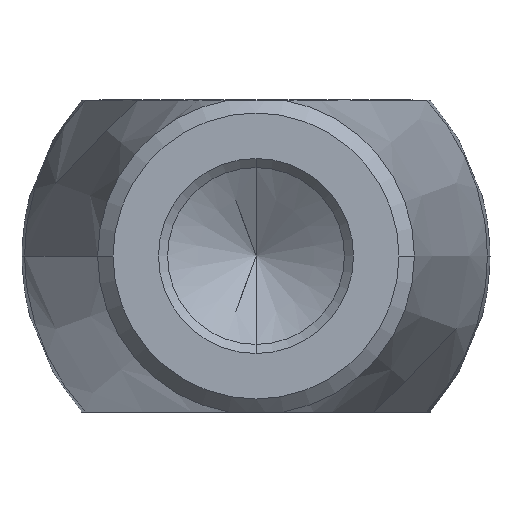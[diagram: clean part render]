
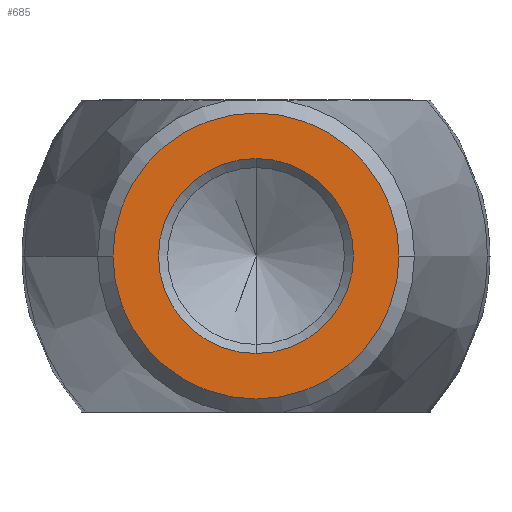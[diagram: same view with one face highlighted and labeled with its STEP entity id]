
A CAD part, front view. The second image highlights one B-rep face of the part: STEP entity #685.
In plain terms, the highlighted planar face has unit normal (0, -1, 0).
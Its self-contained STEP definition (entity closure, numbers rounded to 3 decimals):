
#13 = FACE_OUTER_BOUND ( 'NONE', #271, .T. ) ;
#19 = DIRECTION ( 'NONE',  ( 0., 1., 0. ) ) ;
#44 = DIRECTION ( 'NONE',  ( 0., 0., -1. ) ) ;
#55 = CARTESIAN_POINT ( 'NONE',  ( 0., 0., 0. ) ) ;
#73 = EDGE_CURVE ( 'NONE', #529, #334, #245, .T. ) ;
#115 = EDGE_CURVE ( 'NONE', #511, #583, #631, .T. ) ;
#119 = ORIENTED_EDGE ( 'NONE', *, *, #73, .F. ) ;
#151 = AXIS2_PLACEMENT_3D ( 'NONE', #471, #747, #606 ) ;
#184 = ORIENTED_EDGE ( 'NONE', *, *, #115, .T. ) ;
#198 = AXIS2_PLACEMENT_3D ( 'NONE', #238, #237, #424 ) ;
#208 = AXIS2_PLACEMENT_3D ( 'NONE', #55, #362, #44 ) ;
#209 = PLANE ( 'NONE',  #347 ) ;
#222 = DIRECTION ( 'NONE',  ( 0., -1., 0. ) ) ;
#237 = DIRECTION ( 'NONE',  ( 0., -1., 0. ) ) ;
#238 = CARTESIAN_POINT ( 'NONE',  ( 0., 0., 0. ) ) ;
#245 = CIRCLE ( 'NONE', #151, 3.75 ) ;
#271 = EDGE_LOOP ( 'NONE', ( #184, #642 ) ) ;
#278 = CARTESIAN_POINT ( 'NONE',  ( -4., 0., 0. ) ) ;
#325 = EDGE_CURVE ( 'NONE', #583, #511, #579, .T. ) ;
#328 = CARTESIAN_POINT ( 'NONE',  ( -5.5, 0., 0. ) ) ;
#334 = VERTEX_POINT ( 'NONE', #490 ) ;
#347 = AXIS2_PLACEMENT_3D ( 'NONE', #278, #19, #469 ) ;
#362 = DIRECTION ( 'NONE',  ( 0., -1., 0. ) ) ;
#388 = EDGE_LOOP ( 'NONE', ( #119, #410 ) ) ;
#408 = CARTESIAN_POINT ( 'NONE',  ( 0., 0., 0. ) ) ;
#410 = ORIENTED_EDGE ( 'NONE', *, *, #788, .F. ) ;
#414 = DIRECTION ( 'NONE',  ( -1., 0., 0. ) ) ;
#424 = DIRECTION ( 'NONE',  ( -1., 0., 0. ) ) ;
#448 = CARTESIAN_POINT ( 'NONE',  ( 0., 0., -3.75 ) ) ;
#469 = DIRECTION ( 'NONE',  ( -1., 0., 0. ) ) ;
#471 = CARTESIAN_POINT ( 'NONE',  ( 0., 0., 0. ) ) ;
#490 = CARTESIAN_POINT ( 'NONE',  ( 0., 0., 3.75 ) ) ;
#511 = VERTEX_POINT ( 'NONE', #328 ) ;
#529 = VERTEX_POINT ( 'NONE', #448 ) ;
#546 = CIRCLE ( 'NONE', #208, 3.75 ) ;
#553 = AXIS2_PLACEMENT_3D ( 'NONE', #408, #222, #414 ) ;
#579 = CIRCLE ( 'NONE', #198, 5.5 ) ;
#583 = VERTEX_POINT ( 'NONE', #599 ) ;
#599 = CARTESIAN_POINT ( 'NONE',  ( 5.5, 0., 0. ) ) ;
#606 = DIRECTION ( 'NONE',  ( 0., 0., -1. ) ) ;
#631 = CIRCLE ( 'NONE', #553, 5.5 ) ;
#642 = ORIENTED_EDGE ( 'NONE', *, *, #325, .T. ) ;
#685 = ADVANCED_FACE ( 'NONE', ( #13, #835 ), #209, .F. ) ;
#747 = DIRECTION ( 'NONE',  ( 0., -1., 0. ) ) ;
#788 = EDGE_CURVE ( 'NONE', #334, #529, #546, .T. ) ;
#835 = FACE_BOUND ( 'NONE', #388, .T. ) ;
